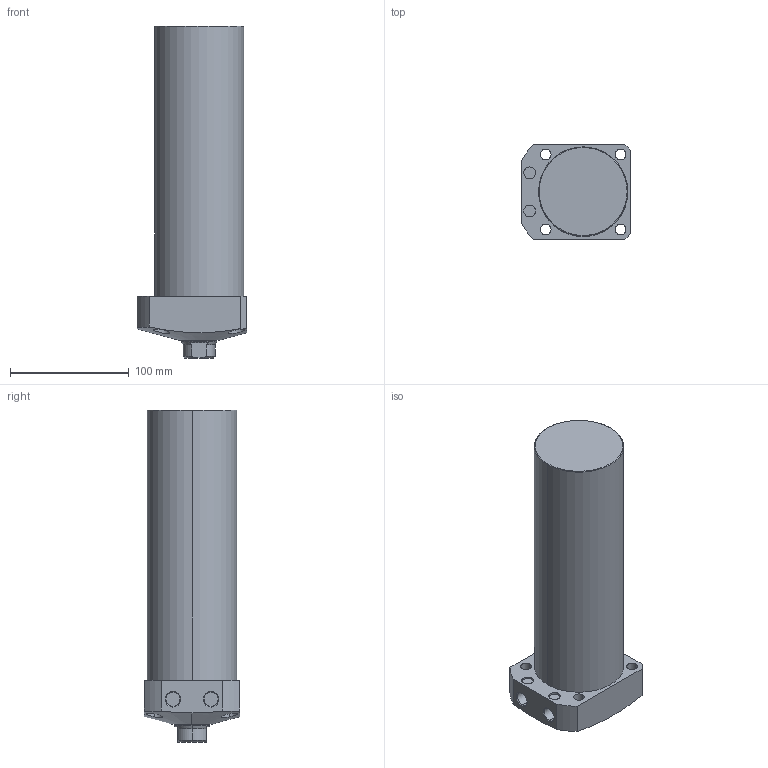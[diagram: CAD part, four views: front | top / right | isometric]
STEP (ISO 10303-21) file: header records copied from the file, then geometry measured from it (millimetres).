
FILE_DESCRIPTION (( 'STEP AP203' ), '1' );
FILE_NAME ('CLL-075CA-190.STEP', '2019-12-23T09:03:15', ( '' ), ( '' ), 'SwSTEP 2.0', 'SolidWorks 2015', '' );
FILE_SCHEMA (( 'CONFIG_CONTROL_DESIGN' ));
Length unit declared in the file: millimetre
Products named in the file (1): CLL-075CA-190
Bounding box: 92 x 80 x 279 mm (x, y, z)
Volume: 1221913.3 mm3; surface area: 85820 mm2
Topology: 1 solids, 1 shells, 74 faces, 171 edges, 108 vertices
Faces by surface type: cylinder 35, plane 22, cone 15, torus 2
Entity records: 2610 total; most frequent: CARTESIAN_POINT 815, DIRECTION 376, ORIENTED_EDGE 338, EDGE_CURVE 169, AXIS2_PLACEMENT_3D 156, VERTEX_POINT 108, EDGE_LOOP 93, CIRCLE 81
